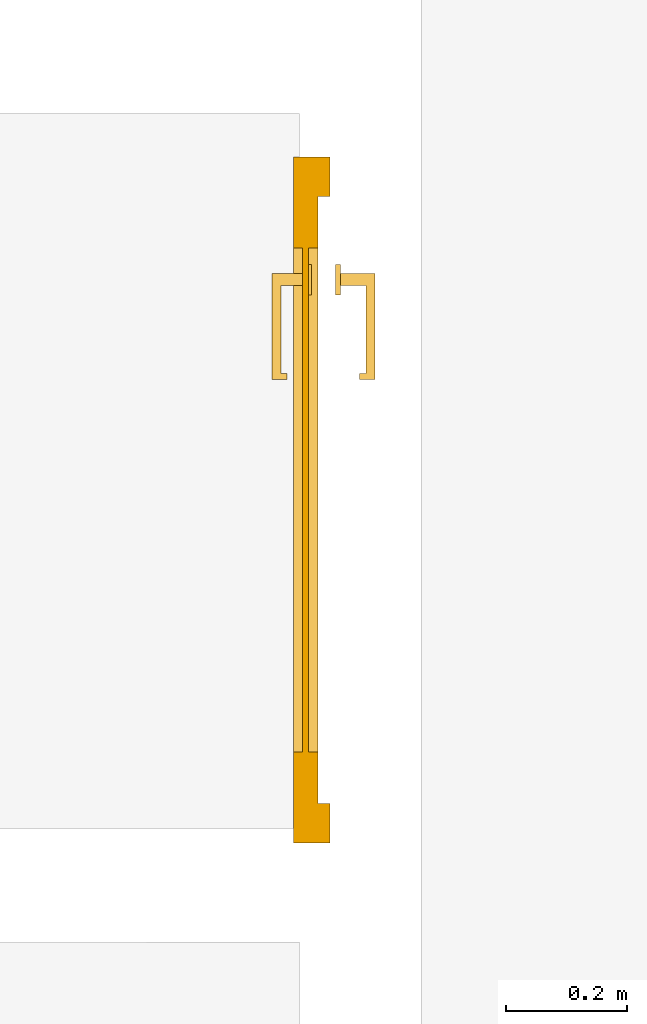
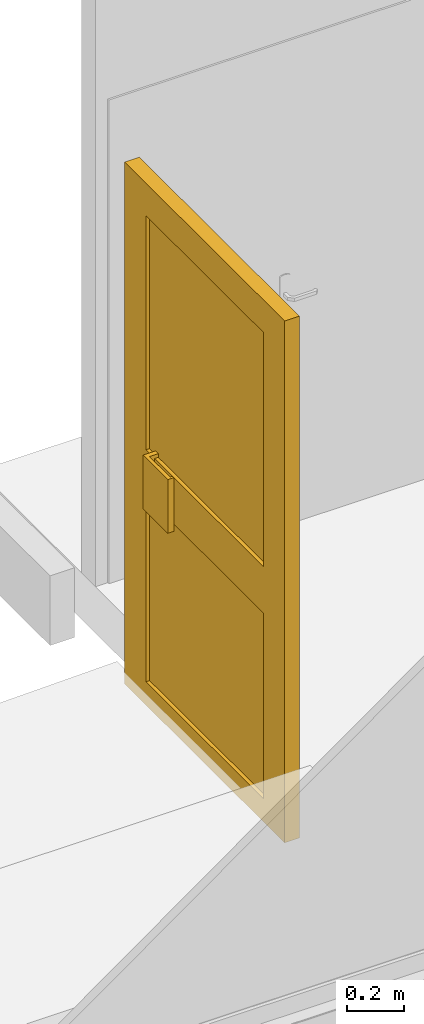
# One storey, part 6 of 10: 1 door.
"""IFC2X3 building model written with IfcOpenShell, lengths in metres."""

from ifc_helpers import new_model, entity, si_unit, converted_unit, derived_unit, direction, frame, origin, place, context, subcontext, project, spatial, faceted_brep, source, transform, mapped, material, material_list, type_object, type_shapes, element, save


model = new_model("IFC2X3")

# Units and contexts
model_context = context("Model", 3, precision=1e-05, world=origin(), true_north=direction((6.12303176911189e-17, 1.0)))
body_context = subcontext(model_context, "Body", "Model", "MODEL_VIEW")
ifc_project = project(units=[si_unit("LENGTHUNIT", "METRE"), si_unit("AREAUNIT", "SQUARE_METRE"), si_unit("VOLUMEUNIT", "CUBIC_METRE"), converted_unit("PLANEANGLEUNIT", "DEGREE", entity("IfcRatioMeasure", 0.0174532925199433), si_unit("PLANEANGLEUNIT", "RADIAN"), dimensions=[0, 0, 0, 0, 0, 0, 0]), si_unit("MASSUNIT", "GRAM", prefix="KILO"), derived_unit("MASSDENSITYUNIT", [(si_unit("MASSUNIT", "GRAM", prefix="KILO"), 1), (si_unit("LENGTHUNIT", "METRE"), -3)]), derived_unit("MOMENTOFINERTIAUNIT", [(si_unit("LENGTHUNIT", "METRE"), 4)]), si_unit("TIMEUNIT", "SECOND"), si_unit("FREQUENCYUNIT", "HERTZ"), si_unit("THERMODYNAMICTEMPERATUREUNIT", "DEGREE_CELSIUS"), derived_unit("THERMALTRANSMITTANCEUNIT", [(si_unit("MASSUNIT", "GRAM", prefix="KILO"), 1), (si_unit("THERMODYNAMICTEMPERATUREUNIT", "KELVIN"), -1), (si_unit("TIMEUNIT", "SECOND"), -3)]), derived_unit("VOLUMETRICFLOWRATEUNIT", [(si_unit("LENGTHUNIT", "METRE"), 3), (si_unit("TIMEUNIT", "SECOND"), -1)]), si_unit("ELECTRICCURRENTUNIT", "AMPERE"), si_unit("ELECTRICVOLTAGEUNIT", "VOLT"), si_unit("POWERUNIT", "WATT"), si_unit("FORCEUNIT", "NEWTON", prefix="KILO"), si_unit("ILLUMINANCEUNIT", "LUX"), si_unit("LUMINOUSFLUXUNIT", "LUMEN"), si_unit("LUMINOUSINTENSITYUNIT", "CANDELA"), derived_unit("USERDEFINED", [(si_unit("MASSUNIT", "GRAM", prefix="KILO"), -1), (si_unit("LENGTHUNIT", "METRE"), -2), (si_unit("TIMEUNIT", "SECOND"), 3), (si_unit("LUMINOUSFLUXUNIT", "LUMEN"), 1)]), derived_unit("LINEARVELOCITYUNIT", [(si_unit("LENGTHUNIT", "METRE"), 1), (si_unit("TIMEUNIT", "SECOND"), -1)]), si_unit("PRESSUREUNIT", "PASCAL"), derived_unit("USERDEFINED", [(si_unit("LENGTHUNIT", "METRE"), -2), (si_unit("MASSUNIT", "GRAM", prefix="KILO"), 1), (si_unit("TIMEUNIT", "SECOND"), -2)]), derived_unit("LINEARFORCEUNIT", [(si_unit("MASSUNIT", "GRAM", prefix="KILO"), 1), (si_unit("LENGTHUNIT", "METRE"), 1), (si_unit("TIMEUNIT", "SECOND"), -2), (si_unit("LENGTHUNIT", "METRE"), -1)]), derived_unit("PLANARFORCEUNIT", [(si_unit("MASSUNIT", "GRAM", prefix="KILO"), 1), (si_unit("LENGTHUNIT", "METRE"), 1), (si_unit("TIMEUNIT", "SECOND"), -2), (si_unit("LENGTHUNIT", "METRE"), -2)])], contexts=[model_context])

# Site, building, storey
site_placement = place(None, origin())
site = spatial("IfcSite", under=ifc_project, at=site_placement, Name="Default", CompositionType="ELEMENT")
building_placement = place(site_placement, origin())
building = spatial("IfcBuilding", under=site, at=building_placement, CompositionType="ELEMENT")
storey_placement = place(building_placement, frame((0.0, 0.0, 0.893308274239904)))
storey = spatial("IfcBuildingStorey", under=building, at=storey_placement, Name="Niveau 00 - 02", CompositionType="ELEMENT", Elevation=0.893308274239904)

# Door
ifc_material_1 = material(Name="PVC - Blanc")
ifc_material_2 = material(Name="Verre")
ifc_material_list_1 = material_list([ifc_material_1, ifc_material_2])
ifc_material_list_2 = material_list([ifc_material_1, ifc_material_1, ifc_material_1])
door_style = type_object("IfcDoorStyle", Name="PVC Panneau Vitré - Traverse:103m x 2.20m", ConstructionType="NOTDEFINED", OperationType="SINGLE_SWING_RIGHT", ParameterTakesPrecedence=False, Sizeable=False, material=ifc_material_list_2)
shared_shape = source(origin(), body_context, "Body", "Brep", [
    faceted_brep([(0.226785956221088, -0.440731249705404, 0.875000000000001), (0.20619338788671, -0.440731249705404, 0.917834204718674), (0.20522537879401, -0.440731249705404, 0.916027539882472), (0.207044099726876, -0.440731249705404, 0.920071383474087), (0.204166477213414, -0.440731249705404, 0.914700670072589), (0.20304556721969, -0.440731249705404, 0.913889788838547), (0.201893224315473, -0.440731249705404, 0.913617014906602), (0.20775430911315, -0.440731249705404, 0.922678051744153), (0.20830464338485, -0.440731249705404, 0.925583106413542), (0.20868009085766, -0.440731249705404, 0.928707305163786), (0.20887041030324, -0.440731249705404, 0.931965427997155), (0.20887041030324, -0.440731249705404, 0.935268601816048), (0.176785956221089, -0.440731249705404, 0.875000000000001), (0.20868009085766, -0.440731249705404, 0.938526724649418), (0.20830464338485, -0.440731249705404, 0.941650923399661), (0.226785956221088, -0.440731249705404, 1.125), (0.207754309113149, -0.440731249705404, 0.94455597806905), (0.207044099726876, -0.440731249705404, 0.947162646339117), (0.20619338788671, -0.440731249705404, 0.94939982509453), (0.20522537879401, -0.440731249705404, 0.951206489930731), (0.204166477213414, -0.440731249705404, 0.952533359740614), (0.20304556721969, -0.440731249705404, 0.953344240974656), (0.201893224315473, -0.440731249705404, 0.953617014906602), (0.176785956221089, -0.440731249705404, 1.125), (0.195481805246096, -0.440731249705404, 0.941650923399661), (0.196032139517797, -0.440731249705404, 0.94455597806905), (0.19674234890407, -0.440731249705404, 0.947162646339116), (0.200740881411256, -0.440731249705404, 0.953344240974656), (0.199619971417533, -0.440731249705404, 0.952533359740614), (0.198561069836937, -0.440731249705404, 0.951206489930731), (0.197593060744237, -0.440731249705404, 0.949399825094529), (0.200740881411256, -0.440731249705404, 0.913889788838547), (0.199619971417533, -0.440731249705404, 0.914700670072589), (0.198561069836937, -0.440731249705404, 0.916027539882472), (0.197593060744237, -0.440731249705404, 0.917834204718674), (0.19674234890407, -0.440731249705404, 0.920071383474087), (0.196032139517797, -0.440731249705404, 0.922678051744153), (0.195481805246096, -0.440731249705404, 0.925583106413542), (0.195106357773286, -0.440731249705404, 0.928707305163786), (0.194916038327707, -0.440731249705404, 0.931965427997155), (0.194916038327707, -0.440731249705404, 0.935268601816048), (0.195106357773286, -0.440731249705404, 0.938526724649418), (0.226785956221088, -0.432731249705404, 1.125), (0.20619338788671, -0.432731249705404, 0.94939982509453), (0.20522537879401, -0.432731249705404, 0.951206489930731), (0.207044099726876, -0.432731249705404, 0.947162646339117), (0.204166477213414, -0.432731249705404, 0.952533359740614), (0.20304556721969, -0.432731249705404, 0.953344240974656), (0.201893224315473, -0.432731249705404, 0.953617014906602), (0.207754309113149, -0.432731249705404, 0.94455597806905), (0.20830464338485, -0.432731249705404, 0.941650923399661), (0.226785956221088, -0.432731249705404, 0.875000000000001), (0.176785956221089, -0.432731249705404, 1.125), (0.20868009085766, -0.432731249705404, 0.938526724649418), (0.20887041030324, -0.432731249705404, 0.935268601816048), (0.20887041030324, -0.432731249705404, 0.931965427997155), (0.20868009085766, -0.432731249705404, 0.928707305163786), (0.20830464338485, -0.432731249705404, 0.925583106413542), (0.20775430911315, -0.432731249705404, 0.922678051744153), (0.207044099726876, -0.432731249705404, 0.920071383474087), (0.20619338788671, -0.432731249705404, 0.917834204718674), (0.20522537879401, -0.432731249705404, 0.916027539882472), (0.204166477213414, -0.432731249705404, 0.914700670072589), (0.20304556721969, -0.432731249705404, 0.913889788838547), (0.201893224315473, -0.432731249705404, 0.913617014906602), (0.176785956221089, -0.432731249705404, 0.875000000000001), (0.195481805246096, -0.432731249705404, 0.941650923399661), (0.195106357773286, -0.432731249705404, 0.938526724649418), (0.194916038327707, -0.432731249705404, 0.935268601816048), (0.200740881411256, -0.432731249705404, 0.913889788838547), (0.199619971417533, -0.432731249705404, 0.914700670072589), (0.198561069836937, -0.432731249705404, 0.916027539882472), (0.197593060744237, -0.432731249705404, 0.917834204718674), (0.19674234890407, -0.432731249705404, 0.920071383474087), (0.196032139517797, -0.432731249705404, 0.922678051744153), (0.195481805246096, -0.432731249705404, 0.925583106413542), (0.195106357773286, -0.432731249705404, 0.928707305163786), (0.194916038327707, -0.432731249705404, 0.931965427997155), (0.200740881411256, -0.432731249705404, 0.953344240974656), (0.199619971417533, -0.432731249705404, 0.952533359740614), (0.198561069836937, -0.432731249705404, 0.951206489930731), (0.197593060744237, -0.432731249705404, 0.949399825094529), (0.19674234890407, -0.432731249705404, 0.947162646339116), (0.196032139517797, -0.432731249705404, 0.94455597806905), (0.205722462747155, -0.436731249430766, 0.950360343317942), (0.201893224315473, -0.43677827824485, 0.913617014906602), (0.201893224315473, -0.436778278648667, 0.953617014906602), (0.208050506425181, -0.436731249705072, 0.924098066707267), (0.205476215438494, -0.436602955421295, 0.916434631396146), (0.208514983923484, -0.436731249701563, 0.940111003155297), (0.198063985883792, -0.436731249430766, 0.916873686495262), (0.195735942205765, -0.436731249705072, 0.943135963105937), (0.198310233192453, -0.436602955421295, 0.950799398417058), (0.195271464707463, -0.436731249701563, 0.927123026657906)], [[[0, 1, 2]], [[1, 0, 3]], [[2, 4, 0]], [[4, 5, 0]], [[0, 5, 6]], [[7, 3, 0]], [[8, 7, 0]], [[9, 8, 0]], [[10, 9, 0]], [[0, 11, 10]], [[6, 12, 0]], [[11, 0, 13]], [[0, 14, 13]], [[15, 14, 0]], [[16, 14, 15]], [[17, 16, 15]], [[15, 18, 17]], [[18, 15, 19]], [[20, 19, 15]], [[21, 20, 15]], [[15, 22, 21]], [[22, 15, 23]], [[24, 23, 12]], [[25, 23, 24]], [[25, 26, 23]], [[27, 22, 23]], [[28, 27, 23]], [[23, 29, 28]], [[30, 29, 23]], [[30, 23, 26]], [[6, 31, 12]], [[32, 12, 31]], [[12, 32, 33]], [[12, 33, 34]], [[34, 35, 12]], [[35, 36, 12]], [[36, 37, 12]], [[37, 38, 12]], [[38, 39, 12]], [[12, 39, 40]], [[41, 12, 40]], [[24, 12, 41]], [[42, 43, 44]], [[43, 42, 45]], [[44, 46, 42]], [[46, 47, 42]], [[42, 47, 48]], [[49, 45, 42]], [[50, 49, 42]], [[51, 50, 42]], [[48, 52, 42]], [[51, 53, 50]], [[51, 54, 53]], [[55, 54, 51]], [[56, 55, 51]], [[56, 51, 57]], [[58, 57, 51]], [[59, 58, 51]], [[51, 60, 59]], [[60, 51, 61]], [[62, 61, 51]], [[63, 62, 51]], [[51, 64, 63]], [[64, 51, 65]], [[52, 66, 65]], [[65, 66, 67]], [[65, 67, 68]], [[69, 64, 65]], [[70, 69, 65]], [[65, 71, 70]], [[72, 71, 65]], [[72, 65, 73]], [[74, 73, 65]], [[74, 65, 75]], [[76, 75, 65]], [[77, 76, 65]], [[77, 65, 68]], [[48, 78, 52]], [[79, 52, 78]], [[52, 79, 80]], [[52, 80, 81]], [[81, 82, 52]], [[82, 83, 52]], [[83, 66, 52]], [[15, 0, 51, 42]], [[23, 15, 42, 52]], [[12, 23, 52, 65]], [[0, 12, 65, 51]], [[19, 20, 84]], [[85, 6, 5]], [[85, 63, 64]], [[86, 21, 22]], [[86, 48, 47]], [[7, 87, 3]], [[84, 46, 44]], [[19, 84, 18]], [[88, 3, 87]], [[86, 84, 20]], [[14, 89, 13]], [[89, 14, 16]], [[43, 84, 44]], [[16, 84, 89]], [[89, 10, 11]], [[16, 17, 84]], [[13, 89, 11]], [[84, 86, 46]], [[87, 57, 58]], [[21, 86, 20]], [[61, 88, 60]], [[89, 50, 53]], [[46, 86, 47]], [[88, 61, 62]], [[45, 84, 43]], [[89, 49, 50]], [[49, 84, 45]], [[53, 54, 89]], [[49, 89, 84]], [[87, 9, 10]], [[87, 7, 8]], [[87, 10, 89]], [[8, 9, 87]], [[1, 3, 88]], [[62, 63, 85]], [[1, 88, 2]], [[85, 5, 4]], [[88, 85, 4]], [[89, 55, 87]], [[87, 55, 56]], [[87, 56, 57]], [[59, 87, 58]], [[88, 87, 59]], [[4, 2, 88]], [[59, 60, 88]], [[88, 62, 85]], [[17, 18, 84]], [[89, 54, 55]], [[33, 32, 90]], [[86, 22, 27]], [[86, 78, 48]], [[85, 31, 6]], [[85, 64, 69]], [[25, 91, 26]], [[90, 70, 71]], [[33, 90, 34]], [[92, 26, 91]], [[85, 90, 32]], [[37, 93, 38]], [[93, 37, 36]], [[72, 90, 71]], [[36, 90, 93]], [[93, 40, 39]], [[36, 35, 90]], [[38, 93, 39]], [[90, 85, 70]], [[91, 66, 83]], [[31, 85, 32]], [[80, 92, 81]], [[93, 75, 76]], [[70, 85, 69]], [[92, 80, 79]], [[73, 90, 72]], [[93, 74, 75]], [[74, 90, 73]], [[76, 77, 93]], [[74, 93, 90]], [[91, 41, 40]], [[91, 25, 24]], [[91, 40, 93]], [[24, 41, 91]], [[30, 26, 92]], [[79, 78, 86]], [[30, 92, 29]], [[86, 27, 28]], [[92, 86, 28]], [[93, 68, 91]], [[91, 68, 67]], [[91, 67, 66]], [[82, 91, 83]], [[92, 91, 82]], [[28, 29, 92]], [[82, 81, 92]], [[92, 79, 86]], [[35, 34, 90]], [[93, 77, 68]]]),
    faceted_brep([(0.191499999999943, -0.375903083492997, 1.11540214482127), (0.191499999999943, -0.432731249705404, 1.11540214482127), (0.211499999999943, -0.432731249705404, 1.11540214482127), (0.211499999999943, -0.390903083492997, 1.11540214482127), (0.356785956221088, -0.390903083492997, 1.11540214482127), (0.356785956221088, -0.400903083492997, 1.11540214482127), (0.366785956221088, -0.400903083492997, 1.11540214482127), (0.366785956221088, -0.375903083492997, 1.11540214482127), (0.191499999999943, -0.375903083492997, 0.883896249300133), (0.366785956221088, -0.375903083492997, 0.883896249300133), (0.366785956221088, -0.400903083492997, 0.883896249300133), (0.356785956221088, -0.400903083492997, 0.883896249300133), (0.356785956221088, -0.390903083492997, 0.883896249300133), (0.211499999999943, -0.390903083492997, 0.883896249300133), (0.211499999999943, -0.432731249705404, 0.883896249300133), (0.191499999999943, -0.432731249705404, 0.883896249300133)], [[[0, 1, 2, 3, 4, 5, 6, 7]], [[8, 9, 10, 11, 12, 13, 14, 15]], [[0, 7, 9, 8]], [[7, 6, 10, 9]], [[6, 5, 11, 10]], [[5, 4, 12, 11]], [[4, 3, 13, 12]], [[3, 2, 14, 13]], [[2, 1, 15, 14]], [[1, 0, 8, 15]]]),
    faceted_brep([(0.191499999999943, -0.545559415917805, 1.11540214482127), (0.366785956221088, -0.545559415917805, 1.11540214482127), (0.366785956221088, -0.520559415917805, 1.11540214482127), (0.356785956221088, -0.520559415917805, 1.11540214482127), (0.356785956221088, -0.530559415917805, 1.11540214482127), (0.211499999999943, -0.530559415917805, 1.11540214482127), (0.211499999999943, -0.488731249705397, 1.11540214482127), (0.191499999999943, -0.488731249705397, 1.11540214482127), (0.191499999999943, -0.545559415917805, 0.883896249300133), (0.191499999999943, -0.488731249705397, 0.883896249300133), (0.211499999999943, -0.488731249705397, 0.883896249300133), (0.211499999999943, -0.530559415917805, 0.883896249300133), (0.356785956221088, -0.530559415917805, 0.883896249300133), (0.356785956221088, -0.520559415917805, 0.883896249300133), (0.366785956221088, -0.520559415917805, 0.883896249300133), (0.366785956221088, -0.545559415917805, 0.883896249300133)], [[[0, 1, 2, 3, 4, 5, 6, 7]], [[8, 9, 10, 11, 12, 13, 14, 15]], [[1, 0, 8, 15]], [[2, 1, 15, 14]], [[3, 2, 14, 13]], [[4, 3, 13, 12]], [[5, 4, 12, 11]], [[6, 5, 11, 10]], [[7, 6, 10, 9]], [[0, 7, 9, 8]]]),
    faceted_brep([(0.226785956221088, -0.488731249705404, 0.875000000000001), (0.20619338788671, -0.488731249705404, 0.917834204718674), (0.20522537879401, -0.488731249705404, 0.916027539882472), (0.207044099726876, -0.488731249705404, 0.920071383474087), (0.204166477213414, -0.488731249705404, 0.914700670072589), (0.20304556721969, -0.488731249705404, 0.913889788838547), (0.201893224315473, -0.488731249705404, 0.913617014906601), (0.20775430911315, -0.488731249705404, 0.922678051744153), (0.20830464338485, -0.488731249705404, 0.925583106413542), (0.20868009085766, -0.488731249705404, 0.928707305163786), (0.20887041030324, -0.488731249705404, 0.931965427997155), (0.20887041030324, -0.488731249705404, 0.935268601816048), (0.176785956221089, -0.488731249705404, 0.875000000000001), (0.20868009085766, -0.488731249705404, 0.938526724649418), (0.20830464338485, -0.488731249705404, 0.941650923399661), (0.226785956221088, -0.488731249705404, 1.125), (0.207754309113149, -0.488731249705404, 0.94455597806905), (0.207044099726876, -0.488731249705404, 0.947162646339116), (0.20619338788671, -0.488731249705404, 0.949399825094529), (0.20522537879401, -0.488731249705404, 0.951206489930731), (0.204166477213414, -0.488731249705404, 0.952533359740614), (0.20304556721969, -0.488731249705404, 0.953344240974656), (0.201893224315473, -0.488731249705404, 0.953617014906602), (0.176785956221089, -0.488731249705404, 1.125), (0.195481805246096, -0.488731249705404, 0.941650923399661), (0.196032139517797, -0.488731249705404, 0.94455597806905), (0.19674234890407, -0.488731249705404, 0.947162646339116), (0.200740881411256, -0.488731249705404, 0.953344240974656), (0.199619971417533, -0.488731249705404, 0.952533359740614), (0.198561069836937, -0.488731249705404, 0.951206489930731), (0.197593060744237, -0.488731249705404, 0.949399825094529), (0.200740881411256, -0.488731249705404, 0.913889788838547), (0.199619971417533, -0.488731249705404, 0.914700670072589), (0.198561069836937, -0.488731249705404, 0.916027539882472), (0.197593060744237, -0.488731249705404, 0.917834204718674), (0.19674234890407, -0.488731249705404, 0.920071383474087), (0.196032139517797, -0.488731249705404, 0.922678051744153), (0.195481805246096, -0.488731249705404, 0.925583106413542), (0.195106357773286, -0.488731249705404, 0.928707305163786), (0.194916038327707, -0.488731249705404, 0.931965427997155), (0.194916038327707, -0.488731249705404, 0.935268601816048), (0.195106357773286, -0.488731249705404, 0.938526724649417), (0.226785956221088, -0.480731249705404, 1.125), (0.20619338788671, -0.480731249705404, 0.949399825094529), (0.20522537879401, -0.480731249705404, 0.951206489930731), (0.207044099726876, -0.480731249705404, 0.947162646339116), (0.204166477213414, -0.480731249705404, 0.952533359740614), (0.20304556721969, -0.480731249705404, 0.953344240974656), (0.201893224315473, -0.480731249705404, 0.953617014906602), (0.207754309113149, -0.480731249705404, 0.94455597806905), (0.20830464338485, -0.480731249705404, 0.941650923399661), (0.226785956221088, -0.480731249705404, 0.875000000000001), (0.176785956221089, -0.480731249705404, 1.125), (0.20868009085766, -0.480731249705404, 0.938526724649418), (0.20887041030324, -0.480731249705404, 0.935268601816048), (0.20887041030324, -0.480731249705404, 0.931965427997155), (0.20868009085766, -0.480731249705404, 0.928707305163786), (0.20830464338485, -0.480731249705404, 0.925583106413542), (0.20775430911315, -0.480731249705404, 0.922678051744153), (0.207044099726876, -0.480731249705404, 0.920071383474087), (0.20619338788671, -0.480731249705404, 0.917834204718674), (0.20522537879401, -0.480731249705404, 0.916027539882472), (0.204166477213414, -0.480731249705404, 0.914700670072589), (0.20304556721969, -0.480731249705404, 0.913889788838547), (0.201893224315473, -0.480731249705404, 0.913617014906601), (0.176785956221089, -0.480731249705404, 0.875000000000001), (0.195481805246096, -0.480731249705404, 0.941650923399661), (0.195106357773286, -0.480731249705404, 0.938526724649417), (0.194916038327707, -0.480731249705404, 0.935268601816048), (0.200740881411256, -0.480731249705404, 0.913889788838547), (0.199619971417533, -0.480731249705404, 0.914700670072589), (0.198561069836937, -0.480731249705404, 0.916027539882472), (0.197593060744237, -0.480731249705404, 0.917834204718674), (0.19674234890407, -0.480731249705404, 0.920071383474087), (0.196032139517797, -0.480731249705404, 0.922678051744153), (0.195481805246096, -0.480731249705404, 0.925583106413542), (0.195106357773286, -0.480731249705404, 0.928707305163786), (0.194916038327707, -0.480731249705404, 0.931965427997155), (0.200740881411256, -0.480731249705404, 0.953344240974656), (0.199619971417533, -0.480731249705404, 0.952533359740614), (0.198561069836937, -0.480731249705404, 0.951206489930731), (0.197593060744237, -0.480731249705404, 0.949399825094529), (0.19674234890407, -0.480731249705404, 0.947162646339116), (0.196032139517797, -0.480731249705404, 0.94455597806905), (0.205722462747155, -0.484731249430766, 0.950360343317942), (0.201893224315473, -0.484778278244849, 0.913617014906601), (0.201893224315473, -0.484778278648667, 0.953617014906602), (0.208050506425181, -0.484731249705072, 0.924098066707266), (0.205476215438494, -0.484602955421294, 0.916434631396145), (0.208514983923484, -0.484731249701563, 0.940111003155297), (0.198063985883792, -0.484731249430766, 0.916873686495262), (0.195735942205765, -0.484731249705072, 0.943135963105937), (0.198310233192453, -0.484602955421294, 0.950799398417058), (0.195271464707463, -0.484731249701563, 0.927123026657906)], [[[0, 1, 2]], [[1, 0, 3]], [[2, 4, 0]], [[4, 5, 0]], [[0, 5, 6]], [[7, 3, 0]], [[8, 7, 0]], [[9, 8, 0]], [[10, 9, 0]], [[0, 11, 10]], [[6, 12, 0]], [[11, 0, 13]], [[0, 14, 13]], [[15, 14, 0]], [[16, 14, 15]], [[17, 16, 15]], [[15, 18, 17]], [[18, 15, 19]], [[20, 19, 15]], [[21, 20, 15]], [[15, 22, 21]], [[22, 15, 23]], [[24, 23, 12]], [[25, 23, 24]], [[25, 26, 23]], [[27, 22, 23]], [[28, 27, 23]], [[23, 29, 28]], [[30, 29, 23]], [[30, 23, 26]], [[6, 31, 12]], [[32, 12, 31]], [[12, 32, 33]], [[12, 33, 34]], [[34, 35, 12]], [[35, 36, 12]], [[36, 37, 12]], [[37, 38, 12]], [[38, 39, 12]], [[12, 39, 40]], [[41, 12, 40]], [[24, 12, 41]], [[42, 43, 44]], [[43, 42, 45]], [[44, 46, 42]], [[46, 47, 42]], [[42, 47, 48]], [[49, 45, 42]], [[50, 49, 42]], [[51, 50, 42]], [[48, 52, 42]], [[51, 53, 50]], [[51, 54, 53]], [[55, 54, 51]], [[56, 55, 51]], [[56, 51, 57]], [[58, 57, 51]], [[59, 58, 51]], [[51, 60, 59]], [[60, 51, 61]], [[62, 61, 51]], [[63, 62, 51]], [[51, 64, 63]], [[64, 51, 65]], [[52, 66, 65]], [[65, 66, 67]], [[65, 67, 68]], [[69, 64, 65]], [[70, 69, 65]], [[65, 71, 70]], [[72, 71, 65]], [[72, 65, 73]], [[74, 73, 65]], [[74, 65, 75]], [[76, 75, 65]], [[77, 76, 65]], [[77, 65, 68]], [[48, 78, 52]], [[79, 52, 78]], [[52, 79, 80]], [[52, 80, 81]], [[81, 82, 52]], [[82, 83, 52]], [[83, 66, 52]], [[15, 0, 51, 42]], [[23, 15, 42, 52]], [[12, 23, 52, 65]], [[0, 12, 65, 51]], [[19, 20, 84]], [[85, 6, 5]], [[85, 63, 64]], [[86, 21, 22]], [[86, 48, 47]], [[7, 87, 3]], [[84, 46, 44]], [[19, 84, 18]], [[88, 3, 87]], [[86, 84, 20]], [[14, 89, 13]], [[89, 14, 16]], [[43, 84, 44]], [[16, 84, 89]], [[89, 10, 11]], [[16, 17, 84]], [[13, 89, 11]], [[84, 86, 46]], [[87, 57, 58]], [[21, 86, 20]], [[61, 88, 60]], [[89, 50, 53]], [[46, 86, 47]], [[88, 61, 62]], [[45, 84, 43]], [[89, 49, 50]], [[49, 84, 45]], [[53, 54, 89]], [[49, 89, 84]], [[87, 9, 10]], [[87, 7, 8]], [[87, 10, 89]], [[8, 9, 87]], [[1, 3, 88]], [[62, 63, 85]], [[1, 88, 2]], [[85, 5, 4]], [[88, 85, 4]], [[89, 55, 87]], [[87, 55, 56]], [[87, 56, 57]], [[59, 87, 58]], [[88, 87, 59]], [[4, 2, 88]], [[59, 60, 88]], [[88, 62, 85]], [[17, 18, 84]], [[89, 54, 55]], [[33, 32, 90]], [[86, 22, 27]], [[86, 78, 48]], [[85, 31, 6]], [[85, 64, 69]], [[25, 91, 26]], [[90, 70, 71]], [[33, 90, 34]], [[92, 26, 91]], [[85, 90, 32]], [[37, 93, 38]], [[93, 37, 36]], [[72, 90, 71]], [[36, 90, 93]], [[93, 40, 39]], [[36, 35, 90]], [[38, 93, 39]], [[90, 85, 70]], [[91, 66, 83]], [[31, 85, 32]], [[80, 92, 81]], [[93, 75, 76]], [[70, 85, 69]], [[92, 80, 79]], [[73, 90, 72]], [[93, 74, 75]], [[74, 90, 73]], [[76, 77, 93]], [[74, 93, 90]], [[91, 41, 40]], [[91, 25, 24]], [[91, 40, 93]], [[24, 41, 91]], [[30, 26, 92]], [[79, 78, 86]], [[30, 92, 29]], [[86, 27, 28]], [[92, 86, 28]], [[93, 68, 91]], [[91, 68, 67]], [[91, 67, 66]], [[82, 91, 83]], [[92, 91, 82]], [[28, 29, 92]], [[82, 81, 92]], [[92, 79, 86]], [[35, 34, 90]], [[93, 77, 68]]]),
    faceted_brep([(0.0, -0.51000000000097, 0.0), (0.0, -0.45000000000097, 0.0), (0.0649999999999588, -0.45000000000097, 0.0), (0.0649999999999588, -0.47000000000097, 0.0), (0.0499999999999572, -0.47000000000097, 0.0), (0.0499999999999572, -0.51000000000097, 0.0), (0.0, -0.51000000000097, 2.25000000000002), (0.0, -0.45000000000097, 2.25000000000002), (1.12999999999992, -0.45000000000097, 2.25000000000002), (1.12999999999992, -0.45000000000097, 0.0), (1.06499999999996, -0.45000000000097, 0.0), (1.06499999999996, -0.45000000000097, 2.18500000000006), (0.0649999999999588, -0.45000000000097, 2.18500000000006), (0.0649999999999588, -0.47000000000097, 2.18500000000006), (1.06499999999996, -0.47000000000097, 2.18500000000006), (1.06499999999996, -0.47000000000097, 0.0), (1.07999999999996, -0.47000000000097, 0.0), (1.07999999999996, -0.47000000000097, 2.20000000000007), (0.0499999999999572, -0.47000000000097, 2.20000000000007), (0.0499999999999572, -0.51000000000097, 2.20000000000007), (1.07999999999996, -0.51000000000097, 2.20000000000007), (1.07999999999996, -0.51000000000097, 0.0), (1.12999999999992, -0.51000000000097, 0.0), (1.12999999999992, -0.51000000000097, 2.25000000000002)], [[[0, 1, 2, 3, 4, 5]], [[1, 0, 6, 7]], [[2, 1, 7, 8, 9, 10, 11, 12]], [[3, 2, 12, 13]], [[4, 3, 13, 14, 15, 16, 17, 18]], [[5, 4, 18, 19]], [[0, 5, 19, 20, 21, 22, 23, 6]], [[8, 23, 22, 9]], [[22, 21, 16, 15, 10, 9]], [[14, 11, 10, 15]], [[20, 17, 16, 21]], [[7, 6, 23, 8]], [[13, 12, 11, 14]], [[19, 18, 17, 20]]]),
    faceted_brep([(0.150000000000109, -0.495000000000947, 2.11000000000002), (0.150000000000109, -0.495000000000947, 1.1), (0.980000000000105, -0.495000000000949, 1.1), (0.980000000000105, -0.495000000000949, 2.11000000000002), (0.150000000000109, -0.485000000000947, 2.11000000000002), (0.150000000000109, -0.485000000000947, 1.1), (0.980000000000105, -0.485000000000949, 1.1), (0.980000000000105, -0.485000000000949, 2.11000000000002)], [[[0, 1, 2, 3]], [[1, 0, 4, 5]], [[2, 1, 5, 6]], [[3, 2, 6, 7]], [[0, 3, 7, 4]], [[4, 7, 6, 5]]]),
    faceted_brep([(0.980000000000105, -0.485000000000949, 0.899999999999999), (0.980000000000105, -0.485000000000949, 0.0999999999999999), (0.150000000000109, -0.485000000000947, 0.0999999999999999), (0.150000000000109, -0.485000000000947, 0.899999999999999), (0.150000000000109, -0.495000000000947, 0.899999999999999), (0.980000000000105, -0.495000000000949, 0.899999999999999), (0.150000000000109, -0.495000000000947, 0.0999999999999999), (0.980000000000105, -0.495000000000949, 0.0999999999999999)], [[[0, 1, 2, 3]], [[4, 5, 0, 3]], [[6, 4, 3, 2]], [[7, 6, 2, 1]], [[5, 7, 1, 0]], [[5, 4, 6, 7]]]),
    faceted_brep([(0.0499999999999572, -0.51000000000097, 2.20000000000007), (0.0499999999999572, -0.51000000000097, 0.0), (1.07999999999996, -0.51000000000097, 0.0), (1.07999999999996, -0.51000000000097, 2.20000000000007), (0.980000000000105, -0.51000000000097, 2.11000000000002), (0.980000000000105, -0.51000000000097, 1.1), (0.150000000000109, -0.51000000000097, 1.1), (0.150000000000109, -0.51000000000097, 2.11000000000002), (0.980000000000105, -0.51000000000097, 0.0999999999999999), (0.150000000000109, -0.51000000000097, 0.0999999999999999), (0.150000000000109, -0.51000000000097, 0.9), (0.980000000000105, -0.51000000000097, 0.9), (0.0499999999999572, -0.47000000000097, 2.20000000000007), (1.07999999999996, -0.47000000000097, 2.20000000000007), (1.07999999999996, -0.47000000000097, 0.0), (0.0499999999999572, -0.47000000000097, 0.0), (0.980000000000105, -0.47000000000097, 2.11000000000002), (0.150000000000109, -0.47000000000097, 2.11000000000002), (0.150000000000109, -0.47000000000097, 1.1), (0.980000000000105, -0.47000000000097, 1.1), (0.980000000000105, -0.47000000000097, 0.0999999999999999), (0.980000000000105, -0.47000000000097, 0.9), (0.150000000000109, -0.47000000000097, 0.9), (0.150000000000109, -0.47000000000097, 0.0999999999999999)], [[[0, 1, 2, 3], [4, 5, 6, 7], [8, 9, 10, 11]], [[12, 13, 14, 15], [16, 17, 18, 19], [20, 21, 22, 23]], [[1, 0, 12, 15]], [[2, 1, 15, 14]], [[3, 2, 14, 13]], [[0, 3, 13, 12]], [[5, 4, 16, 19]], [[6, 5, 19, 18]], [[7, 6, 18, 17]], [[4, 7, 17, 16]], [[9, 8, 20, 23]], [[10, 9, 23, 22]], [[11, 10, 22, 21]], [[8, 11, 21, 20]]]),
])
type_shapes(door_style, [shared_shape])
door_placement = place(storey_placement, frame((-18.4440938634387, 12.9519176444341, 0.0), z_axis=(0.0, 0.0, 1.0), x_axis=(0.0, -1.0, 0.0)))
element("IfcDoor", 1, at=door_placement, inside=storey, type_object=door_style, material=ifc_material_list_1, Name="PVC Panneau Vitré - Traverse:103m x 2.20m", ObjectType="PVC Panneau Vitré - Traverse:103m x 2.20m", OverallHeight=2.25000000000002, OverallWidth=1.12999999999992, context=body_context, shape_type="MappedRepresentation", body=[
    mapped(shared_shape, transform((0.0, 0.0, 0.0), scale=1.0)),
])

save(model, "model.ifc")
